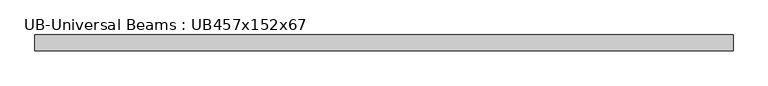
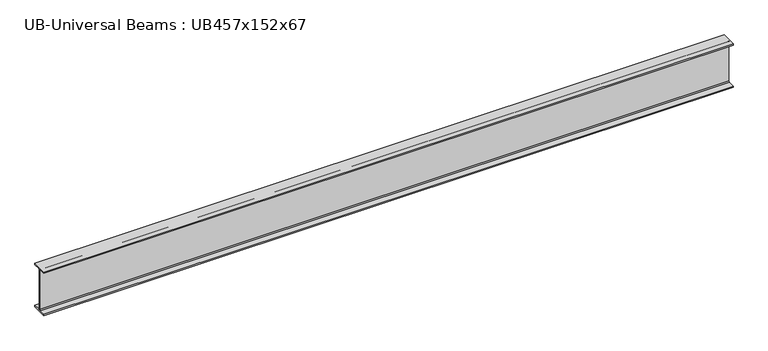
"""IFC4 building model written with IfcOpenShell, lengths in millimetres: beam geometry, UB-Universal Beams : UB457x152x67."""

import ifcopenshell
import ifcopenshell.guid

model = None  # the IFC model being written
_history = None  # IfcOwnerHistory: only IFC2X3 demands one
_inside = {}  # id of a spatial element -> (the spatial element, [elements in it])
_under = {}  # id of a project, library or spatial element -> (it, [spatial elements below it])
_declared = {}  # id of a project -> (the project, [libraries it declares])
_typed = {}  # id of a type object -> (the type object, [elements of that type])
_made_of = {}  # id of a material, layer set ... -> (it, [elements and type objects made of it])


def new_model(schema):
    """Start an empty IFC model of exactly this schema.

    Asked for "IFC4X3", IfcOpenShell would pick the latest addendum, in which some entities
    have other attributes; the version numbers below select the first issue.
    IFC2X3 requires an IfcOwnerHistory on every rooted entity: one is made here for all.
    """
    global model, _history
    if schema == "IFC4X3":
        model = ifcopenshell.file(schema_version=(4, 3, 0, 0))
    else:
        model = ifcopenshell.file(schema=schema)
    _inside.clear()
    _under.clear()
    _declared.clear()
    _typed.clear()
    _made_of.clear()
    _history = None
    if model.schema == "IFC2X3":
        org = make("IfcOrganization", Name="unknown")
        user = make(
            "IfcPersonAndOrganization",
            ThePerson=make("IfcPerson", FamilyName="unknown"),
            TheOrganization=org,
        )
        app = make(
            "IfcApplication",
            ApplicationDeveloper=org,
            Version="unknown",
            ApplicationFullName="unknown",
            ApplicationIdentifier="unknown",
        )
        _history = make(
            "IfcOwnerHistory",
            OwningUser=user,
            OwningApplication=app,
            ChangeAction="ADDED",
            CreationDate=0,
        )
    return model


def make(cls, **values):
    """One entity of the class cls with the attributes given. An attribute that is None is left unset."""
    return model.create_entity(
        cls, **{name: value for name, value in values.items() if value is not None}
    )


def rooted(cls, **values):
    """An entity with a GlobalId (a new one), such as an element, a storey or a relation."""
    return make(cls, GlobalId=ifcopenshell.guid.new(), OwnerHistory=_history, **values)


def si_unit(unit_type, name, prefix=None):
    """IfcSIUnit, for example si_unit("LENGTHUNIT", "METRE", prefix="MILLI")."""
    return make("IfcSIUnit", UnitType=unit_type, Prefix=prefix, Name=name)


def assignment(units):
    """IfcUnitAssignment: the units of a project."""
    return None if units is None else make("IfcUnitAssignment", Units=units)


def point(xyz):
    """IfcCartesianPoint."""
    return None if xyz is None else make("IfcCartesianPoint", Coordinates=xyz)


def direction(xyz):
    """IfcDirection."""
    return None if xyz is None else make("IfcDirection", DirectionRatios=xyz)


def frame(location, z_axis=None, x_axis=None):
    """IfcAxis2Placement3D, a coordinate frame: its origin and axes. An axis left out is left unset."""
    return make(
        "IfcAxis2Placement3D",
        Location=point(location),
        Axis=direction(z_axis),
        RefDirection=direction(x_axis),
    )


def frame_2d(location, x_axis=None):
    """IfcAxis2Placement2D, a coordinate frame in the plane: its origin and x axis."""
    return make(
        "IfcAxis2Placement2D", Location=point(location), RefDirection=direction(x_axis)
    )


def origin():
    """The frame at (0, 0, 0) with its axes left unset."""
    return frame((0.0, 0.0, 0.0))


def place(relative_to, where):
    """IfcLocalPlacement: puts the frame where relative to a parent placement (None: the world)."""
    return make(
        "IfcLocalPlacement", PlacementRelTo=relative_to, RelativePlacement=where
    )


def context(
    kind, dimensions, precision=None, world=None, true_north=None, identifier=None
):
    """IfcGeometricRepresentationContext, for example the 3D "Model" context."""
    return make(
        "IfcGeometricRepresentationContext",
        ContextIdentifier=identifier,
        ContextType=kind,
        CoordinateSpaceDimension=dimensions,
        Precision=precision,
        WorldCoordinateSystem=world,
        TrueNorth=true_north,
    )


def project(units=None, contexts=None):
    """IfcProject with its units and contexts."""
    return rooted(
        "IfcProject",
        Name="project",
        RepresentationContexts=contexts,
        UnitsInContext=assignment(units),
    )


def spatial(cls, under=None, at=None, **own):
    """A site, building, storey or space (cls), placed at a placement, below another one or the project."""
    s = rooted(cls, ObjectPlacement=at, **own)
    if under is not None:
        _under.setdefault(under.id(), (under, []))[1].append(s)
    return s


def polyline(points):
    """IfcPolyline through the points."""
    return make("IfcPolyline", Points=[point(p) for p in points])


def circle_curve(where, radius):
    """IfcCircle in the frame where."""
    return make("IfcCircle", Position=where, Radius=radius)


def trimmed(basis, trim1, trim2, sense, master):
    """IfcTrimmedCurve: the piece of a basis curve between two trims."""
    return make(
        "IfcTrimmedCurve",
        BasisCurve=basis,
        Trim1=trim1,
        Trim2=trim2,
        SenseAgreement=sense,
        MasterRepresentation=master,
    )


def segment(curve, same_sense, transition):
    """IfcCompositeCurveSegment."""
    return make(
        "IfcCompositeCurveSegment",
        Transition=transition,
        SameSense=same_sense,
        ParentCurve=curve,
    )


def composite_curve(segments, self_intersect=None):
    """IfcCompositeCurve: segments joined end to end."""
    return make("IfcCompositeCurve", Segments=segments, SelfIntersect=self_intersect)


def outline(outer, holes=None, kind="AREA"):
    """IfcArbitraryClosedProfileDef: a profile drawn as a closed curve; with holes, ...WithVoids."""
    if holes is None:
        return make("IfcArbitraryClosedProfileDef", ProfileType=kind, OuterCurve=outer)
    return make(
        "IfcArbitraryProfileDefWithVoids",
        ProfileType=kind,
        OuterCurve=outer,
        InnerCurves=holes,
    )


def extrude(swept, where, along, depth):
    """IfcExtrudedAreaSolid: the profile swept, set in the frame where, extruded along a direction by depth."""
    return make(
        "IfcExtrudedAreaSolid",
        SweptArea=swept,
        Position=where,
        ExtrudedDirection=direction(along),
        Depth=depth,
    )


def shape(context_of_items, identifier, shape_type, items):
    """IfcShapeRepresentation: the items that make up one representation, for example the "Body"."""
    return make(
        "IfcShapeRepresentation",
        ContextOfItems=context_of_items,
        RepresentationIdentifier=identifier,
        RepresentationType=shape_type,
        Items=items,
    )


def source(mapping_origin, context_of_items, identifier, shape_type, items):
    """IfcRepresentationMap: a shape defined once, which mapped items show again and again."""
    return make(
        "IfcRepresentationMap",
        MappingOrigin=mapping_origin,
        MappedRepresentation=shape(context_of_items, identifier, shape_type, items),
    )


def transform(
    local_origin,
    x_axis=None,
    y_axis=None,
    z_axis=None,
    scale=None,
    scale2=None,
    scale3=None,
    uniform=True,
):
    """IfcCartesianTransformationOperator3D, or its non-uniform kind. x_axis, y_axis, z_axis: its Axis1, 2, 3."""
    if uniform:
        return make(
            "IfcCartesianTransformationOperator3D",
            Axis1=direction(x_axis),
            Axis2=direction(y_axis),
            LocalOrigin=point(local_origin),
            Scale=scale,
            Axis3=direction(z_axis),
        )
    return make(
        "IfcCartesianTransformationOperator3DnonUniform",
        Axis1=direction(x_axis),
        Axis2=direction(y_axis),
        LocalOrigin=point(local_origin),
        Scale=scale,
        Axis3=direction(z_axis),
        Scale2=scale2,
        Scale3=scale3,
    )


def mapped(mapping_source, mapping_target):
    """IfcMappedItem: shows the shape of a source again, moved by a transform."""
    return make(
        "IfcMappedItem", MappingSource=mapping_source, MappingTarget=mapping_target
    )


def made_of(thing, what):
    """Note that an element or type object is made of a material, layer set ...; save() writes the relation."""
    if what is not None:
        _made_of.setdefault(what.id(), (what, []))[1].append(thing)
    return thing


def element(
    cls,
    number,
    at=None,
    inside=None,
    cuts=None,
    type_object=None,
    material=None,
    context=None,
    identifier="Body",
    shape_type=None,
    held_by="IfcProductDefinitionShape",
    body=None,
    shapes=None,
    **own,
):
    """One element of the class cls, such as IfcWall. Its Tag is "e" and its number.

    at: its placement. inside: the storey or other place that contains it. cuts: it is an
    opening in that element (IfcRelVoidsElement). A single representation is given by context,
    identifier, shape_type and body (its items); several are given by shapes. held_by: the class
    of the entity that holds the representations. save() writes the other relations.
    """
    e = rooted(cls, Tag="e%d" % number, ObjectPlacement=at, **own)
    if body is not None:
        shapes = [shape(context, identifier, shape_type, body)]
    if shapes is not None:
        e.Representation = make(held_by, Representations=shapes)
    if inside is not None:
        _inside.setdefault(inside.id(), (inside, []))[1].append(e)
    if cuts is not None:
        rooted(
            "IfcRelVoidsElement", RelatingBuildingElement=cuts, RelatedOpeningElement=e
        )
    if type_object is not None:
        _typed.setdefault(type_object.id(), (type_object, []))[1].append(e)
    return made_of(e, material)


def aggregate(whole, parts):
    """IfcRelAggregates: a whole, such as a stair, and the parts it consists of."""
    return rooted("IfcRelAggregates", RelatingObject=whole, RelatedObjects=parts)


def save(model, path):
    """Write the relations noted so far, then the file.

    IfcRelAggregates (storeys below a building ...), IfcRelContainedInSpatialStructure (elements
    in a storey), IfcRelDefinesByType, IfcRelAssociatesMaterial and IfcRelDeclares: one each for
    every whole, place, type object, material and project.
    """
    for whole, parts in _under.values():
        aggregate(whole, parts)
    for where, things in _inside.values():
        rooted(
            "IfcRelContainedInSpatialStructure",
            RelatedElements=things,
            RelatingStructure=where,
        )
    for kind, things in _typed.values():
        rooted("IfcRelDefinesByType", RelatedObjects=things, RelatingType=kind)
    for what, things in _made_of.values():
        rooted("IfcRelAssociatesMaterial", RelatedObjects=things, RelatingMaterial=what)
    for by, libraries in _declared.values():
        rooted("IfcRelDeclares", RelatingContext=by, RelatedDefinitions=libraries)
    model.write(path)


def ub_universal_beams_ub457x152x67_b17e2f2f(model_context):
    return source(origin(), model_context, "Body", "SweptSolid", [
        extrude(outline(composite_curve([segment(polyline([(76.9, -214.0), (76.9, -229.0), (-76.9, -229.0), (-76.9, -214.0), (-14.7, -214.0)]), True, "CONTINUOUS"), segment(trimmed(circle_curve(frame_2d((-14.7, -203.8)), 10.2), [point((-14.7, -214.0))], [point((-4.5, -203.8))], True, "CARTESIAN"), True, "CONTINUOUS"), segment(polyline([(-4.5, -203.8), (-4.5, 203.8)]), True, "CONTINUOUS"), segment(trimmed(circle_curve(frame_2d((-14.7, 203.8)), 10.2), [point((-4.5, 203.8))], [point((-14.7, 214.0))], True, "CARTESIAN"), True, "CONTINUOUS"), segment(polyline([(-14.7, 214.0), (-76.9, 214.0), (-76.9, 229.0), (76.9, 229.0), (76.9, 214.0), (14.7, 214.0)]), True, "CONTINUOUS"), segment(trimmed(circle_curve(frame_2d((14.7, 203.8)), 10.2), [point((14.7, 214.0))], [point((4.5, 203.8))], True, "CARTESIAN"), True, "CONTINUOUS"), segment(polyline([(4.5, 203.8), (4.5, -203.8)]), True, "CONTINUOUS"), segment(trimmed(circle_curve(frame_2d((14.7, -203.8)), 10.2), [point((4.5, -203.8))], [point((14.7, -214.0))], True, "CARTESIAN"), True, "CONTINUOUS"), segment(polyline([(14.7, -214.0), (76.9, -214.0)]), True, "CONTINUOUS")], self_intersect=False)), frame((-3362.9, 0.0, 0.0), z_axis=(1.0, 0.0, 0.0), x_axis=(0.0, 1.0, 0.0)), (0.0, 0.0, 1.0), 6842.7),
    ])


if __name__ == "__main__":
    model = new_model("IFC4")
    model_context = context("Model", 3, world=origin())
    ifc_project = project(units=[si_unit("LENGTHUNIT", "METRE", prefix="MILLI")], contexts=[model_context])
    site = spatial("IfcSite", under=ifc_project)
    building = spatial("IfcBuilding", under=site)
    placement = place(None, origin())
    ub_universal_beams_ub457x152x67_shape = ub_universal_beams_ub457x152x67_b17e2f2f(model_context)
    element("IfcBeam", 1, ObjectType="UB-Universal Beams : UB457x152x67", at=placement, inside=building, context=model_context, shape_type="MappedRepresentation", body=[
        mapped(ub_universal_beams_ub457x152x67_shape, transform((0.0, 0.0, 0.0), x_axis=(1.0, 0.0, 0.0), y_axis=(0.0, 1.0, 0.0), z_axis=(0.0, 0.0, 1.0))),
    ])
    save(model, "model.ifc")
